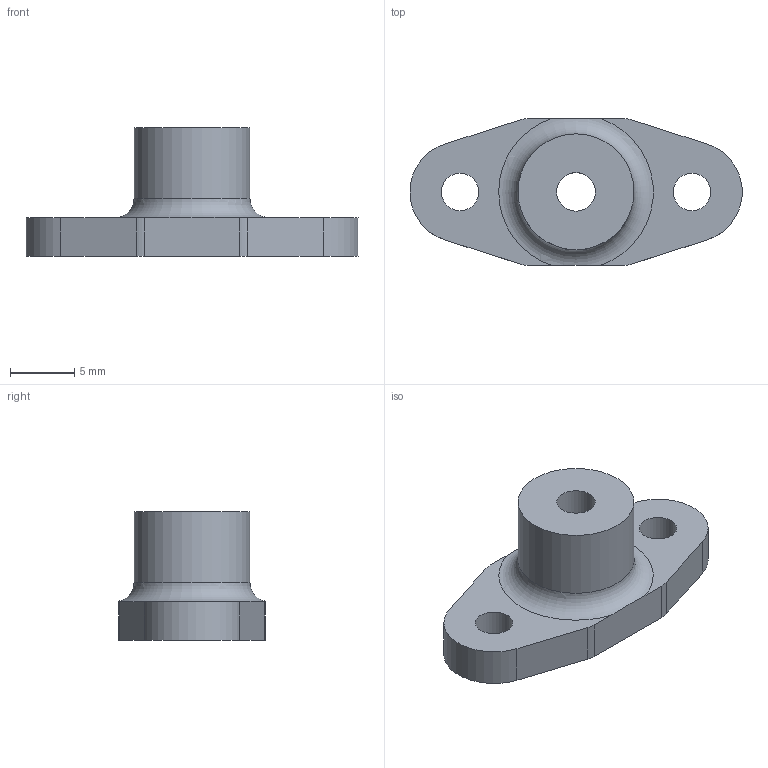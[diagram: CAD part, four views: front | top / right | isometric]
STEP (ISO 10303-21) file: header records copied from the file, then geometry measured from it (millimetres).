
FILE_DESCRIPTION(/* description */ (''),/* implementation_level */ '2;1');
FILE_NAME(/* name */ '/Users/zapro/Downloads/BLTouch.step',/* time_stamp */ '2020-04-21T13:11:28+02:00',/* author */ (''),/* organization */ (''),/* preprocessor_version */ 'ST-DEVELOPER v18.1',/* originating_system */ 'Autodesk Translation Framework v9.2.0.1227',/* authorisation */ '');
FILE_SCHEMA (('AUTOMOTIVE_DESIGN { 1 0 10303 214 3 1 1 }'));
Length unit declared in the file: millimetre
Products named in the file (1): (Unsaved)
Bounding box: 25.77 x 11.4 x 10 mm (x, y, z)
Volume: 1061.4 mm3; surface area: 948.6 mm2
Topology: 1 solids, 1 shells, 21 faces, 56 edges, 37 vertices
Faces by surface type: plane 10, cylinder 10, torus 1
Full cylindrical faces by diameter (mm): 2.9 x2, 3 x1, 9 x1
Entity records: 727 total; most frequent: CARTESIAN_POINT 135, DIRECTION 122, ORIENTED_EDGE 112, EDGE_CURVE 56, AXIS2_PLACEMENT_3D 46, VERTEX_POINT 37, LINE 30, VECTOR 30
